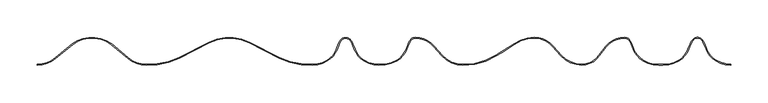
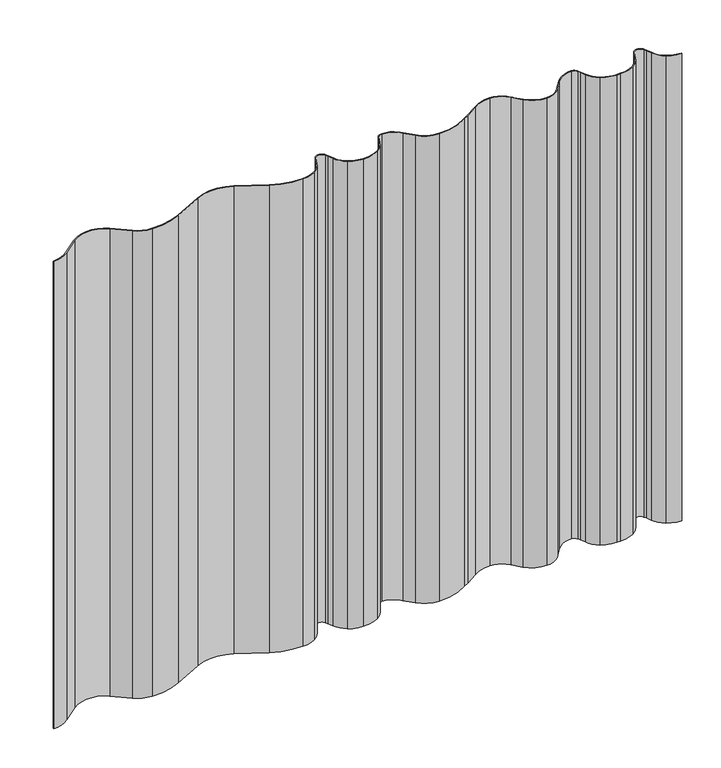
"""IFC4 building model written with IfcOpenShell, lengths in millimetres: plate geometry, Ritmica Vertical 928 : Ritmica Vertical 928."""

from ifc_helpers import new_model, si_unit, frame, origin, place, context, project, spatial, polyline, circle_curve, source, transform, mapped, element, save
from ifc_brep_helpers import plane_surface, cylinder_surface, revolved_surface, advanced_brep


def plate_cdf76dba(model_context):
    return source(origin(), model_context, "Body", "AdvancedBrep", [
        advanced_brep(
        [(444.4302446, 6.5092452, 729.9248737), (431.9836286, 21.2620905, 729.9248737), (429.1046615, 28.4575337, 729.9248737), (427.4452979, 31.9226201, 729.9248737), (411.4637013, 31.9284371, 729.9248737), (409.8018157, 28.4645596, 729.9248737), (406.9176114, 21.271214, 729.9248737), (394.4602592, 6.5274333, 729.9248737), (373.3665492, 0.7421636, 729.9248737), (368.0278773, 0.7421636, 729.9248737), (346.9383844, 6.5447303, 729.9248737), (334.4917684, 21.2975755, 729.9248737), (331.6128013, 28.4930188, 729.9248737), (329.9534377, 31.9581052, 729.9248737), (321.9644706, 36.992141, 729.9248737), (296.9888452, 24.9656023, 729.9248737), (287.4386892, 12.9828793, 729.9248737), (264.9602063, 1.004862, 729.9248737), (237.4962028, 13.0090371, 729.9248737), (226.3924296, 24.9992776, 729.9248737), (201.4255657, 37.0439944, 729.9248737), (174.6923281, 28.6299834, 729.9248737), (157.3593244, 17.4991286, 729.9248737), (149.9257866, 13.1042873, 729.9248737), (105.747615, 0.9217598, 729.9248737), (78.2836116, 12.9259348, 729.9248737), (67.1798385, 24.9161752, 729.9248737), (42.2097646, 36.9608925, 729.9248737), (34.2203451, 31.9326734, 729.9248737), (32.5584593, 28.4687956, 729.9248737), (29.674242, 21.2754179, 729.9248737), (17.2169044, 6.5316705, 729.9248737), (-6.5461114, 0.8337401, 729.9248737), (-26.0848579, 6.3430017, 729.9248737), (-38.5314739, 21.0958469, 729.9248737), (-41.410441, 28.2912902, 729.9248737), (-43.0698047, 31.7563766, 729.9248737), (-59.0514012, 31.7621935, 729.9248737), (-60.7132869, 28.298316, 729.9248737), (-63.5974912, 21.1049705, 729.9248737), (-76.0548434, 6.3611897, 729.9248737), (-95.5975949, 0.8661531, 729.9248737), (-139.3425473, 10.0476548, 729.9248737), (-179.8736188, 30.4443215, 729.9248737), (-233.7774888, 30.4639414, 729.9248737), (-274.3233975, 10.0967851, 729.9248737), (-318.0750221, 0.9471304, 729.9248737), (-341.83917, 9.5589915, 729.9248737), (-364.2633956, 28.2547827, 729.9248737), (-417.1208498, 28.2740218, 729.9248737), (-439.8609935, 9.5945594, 729.9248737), (-463.6317682, 1.0000001, 729.9248737), (-463.6317682, 0.0, 729.9248737), (-439.2211878, 8.8260227, 729.9248737), (-416.5014094, 27.488531, 729.9248737), (-364.8834077, 27.4697431, 729.9248737), (-342.479535, 8.7909208, 729.9248737), (-318.0931528, -0.0528589, 729.9248737), (-273.882295, 9.1992862, 729.9248737), (-233.3286151, 29.5703462, 729.9248737), (-180.3231429, 29.5510533, 729.9248737), (-139.7843031, 9.1504773, 729.9248737), (-95.5801931, -0.1338492, 729.9248737), (-75.5333761, 5.5079185, 729.9248737), (-62.6692321, 20.7330361, 729.9248737), (-59.7974032, 27.8955168, 729.9248737), (-58.1497994, 31.3296266, 729.9248737), (-43.9717211, 31.324466, 729.9248737), (-42.3266177, 27.8891578, 729.9248737), (-39.4600035, 20.7245884, 729.9248737), (-26.6069462, 5.4901103, 729.9248737), (-6.5788504, -0.1662344, 729.9248737), (17.7328786, 5.6750431, 729.9248737), (30.6024869, 20.9034484, 729.9248737), (33.4743429, 28.0659964, 729.9248737), (35.1219469, 31.5001063, 729.9248737), (42.2097628, 35.9608925, 729.9248737), (66.4203948, 24.2645007, 729.9248737), (77.5499027, 12.2464708, 729.9248737), (105.7362544, -0.0782346, 729.9248737), (150.4460781, 12.2501965, 729.9248737), (157.8841427, 16.6477141, 729.9248737), (175.2477974, 27.7982523, 729.9248737), (201.4270073, 36.0439937, 729.9248737), (225.6330756, 24.3475061, 729.9248737), (236.7624939, 12.3295731, 729.9248737), (264.9598423, 0.0048621, 729.9248737), (288.2459339, 12.3912758, 729.9248737), (297.7708595, 24.3423418, 729.9248737), (321.9641067, 35.9921411, 729.9248737), (329.0515212, 31.5261946, 729.9248737), (330.6966247, 28.0908864, 729.9248737), (333.5638307, 20.9248377, 729.9248737), (346.4204051, 5.6893005, 729.9248737), (368.0275134, -0.2558932, 729.9248737), (373.3663683, -0.2578364, 729.9248737), (394.9762369, 5.6708079, 729.9248737), (407.8458704, 20.8992797, 729.9248737), (410.7176994, 28.0617603, 729.9248737), (412.3653031, 31.4958701, 729.9248737), (426.5433815, 31.4907096, 729.9248737), (428.1884849, 28.0554013, 729.9248737), (431.0550991, 20.8908319, 729.9248737), (443.9081563, 5.6563538, 729.9248737), (463.9686268, -1.63e-05, 729.9248737), (463.9686268, 0.9999838, 729.9248737), (444.4302446, 6.5092452, 0.0), (463.9686268, 0.9999838, 0.0), (463.9686268, -1.63e-05, 0.0), (443.9081563, 5.6563538, 0.0), (431.0550991, 20.8908319, 0.0), (428.1884849, 28.0554013, 0.0), (426.5433815, 31.4907096, 0.0), (412.3653031, 31.4958701, 0.0), (410.7176994, 28.0617603, 0.0), (407.8458704, 20.8992797, 0.0), (394.9762369, 5.6708079, 0.0), (373.3663683, -0.2578364, 0.0), (368.0278773, -0.2578364, 0.0), (346.4204051, 5.6893005, 0.0), (333.5638307, 20.9248377, 0.0), (330.6966247, 28.0908864, 0.0), (329.0515212, 31.5261946, 0.0), (321.9641067, 35.9921411, 0.0), (297.7708595, 24.3423418, 0.0), (288.2459339, 12.3912758, 0.0), (264.9598423, 0.0048621, 0.0), (236.7624939, 12.3295731, 0.0), (225.6330756, 24.3475061, 0.0), (201.4270073, 36.0439937, 0.0), (175.2477974, 27.7982523, 0.0), (157.8841427, 16.6477141, 0.0), (150.4460781, 12.2501965, 0.0), (105.7362544, -0.0782346, 0.0), (77.5499027, 12.2464708, 0.0), (66.4203948, 24.2645007, 0.0), (42.2097628, 35.9608925, 0.0), (35.1219469, 31.5001063, 0.0), (33.4743429, 28.0659964, 0.0), (30.6024869, 20.9034484, 0.0), (17.7328786, 5.6750431, 0.0), (-6.5788504, -0.1662344, 0.0), (-26.6069462, 5.4901103, 0.0), (-39.4600035, 20.7245884, 0.0), (-42.3266177, 27.8891578, 0.0), (-43.9717211, 31.324466, 0.0), (-58.1497994, 31.3296266, 0.0), (-59.7974032, 27.8955168, 0.0), (-62.6692321, 20.7330361, 0.0), (-75.5333761, 5.5079185, 0.0), (-95.5801931, -0.1338492, 0.0), (-139.7843031, 9.1504773, 0.0), (-180.3231429, 29.5510533, 0.0), (-233.3286151, 29.5703462, 0.0), (-273.882295, 9.1992862, 0.0), (-318.0931528, -0.0528589, 0.0), (-342.479535, 8.7909208, 0.0), (-364.8834077, 27.4697431, 0.0), (-416.5014094, 27.488531, 0.0), (-439.2211878, 8.8260227, 0.0), (-463.6317682, 0.0, 0.0), (-463.6317682, 1.0000001, 0.0), (-439.8609935, 9.5945594, 0.0), (-417.1208498, 28.2740218, 0.0), (-364.2633956, 28.2547827, 0.0), (-341.83917, 9.5589915, 0.0), (-318.0750221, 0.9471304, 0.0), (-274.3233975, 10.0967851, 0.0), (-233.7774888, 30.4639414, 0.0), (-179.8736188, 30.4443215, 0.0), (-139.3425473, 10.0476548, 0.0), (-95.5975949, 0.8661531, 0.0), (-76.0548434, 6.3611897, 0.0), (-63.5974912, 21.1049705, 0.0), (-60.7132869, 28.298316, 0.0), (-59.0514012, 31.7621935, 0.0), (-43.0698047, 31.7563766, 0.0), (-41.410441, 28.2912902, 0.0), (-38.5314739, 21.0958469, 0.0), (-26.0848579, 6.3430017, 0.0), (-6.5461114, 0.8337401, 0.0), (17.2169044, 6.5316705, 0.0), (29.674242, 21.2754179, 0.0), (32.5584593, 28.4687956, 0.0), (34.2203451, 31.9326734, 0.0), (42.2097646, 36.9608925, 0.0), (67.1798385, 24.9161752, 0.0), (78.2836116, 12.9259348, 0.0), (105.747615, 0.9217598, 0.0), (149.9257866, 13.1042873, 0.0), (157.3593244, 17.4991286, 0.0), (174.6923281, 28.6299834, 0.0), (201.4255657, 37.0439944, 0.0), (226.3924296, 24.9992776, 0.0), (237.4962028, 13.0090371, 0.0), (264.9602063, 1.004862, 0.0), (287.4386892, 12.9828793, 0.0), (296.9888452, 24.9656023, 0.0), (321.9644706, 36.992141, 0.0), (329.9534377, 31.9581052, 0.0), (331.6128013, 28.4930188, 0.0), (334.4917684, 21.2975755, 0.0), (346.9383844, 6.5447303, 0.0), (368.0278773, 0.7441067, 0.0), (373.3665492, 0.7421636, 0.0), (394.4602592, 6.5274333, 0.0), (406.9176114, 21.271214, 0.0), (409.8018157, 28.4645596, 0.0), (411.4637013, 31.9284371, 0.0), (427.4452979, 31.9226201, 0.0), (429.1046615, 28.4575337, 0.0), (431.9836286, 21.2620905, 0.0)],
        [
            (0, 1, circle_curve(frame((460.4148551, 32.6219475, 729.9248737), z_axis=(0.0, 0.0, -1.0), x_axis=(1.0, 0.0, 0.0)), 30.6166783)),
            (1, 2),
            (2, 3),
            (3, 4, circle_curve(frame((419.4531055, 28.095312, 729.9248737), z_axis=(0.0, 0.0, 1.0), x_axis=(1.0, 0.0, 0.0)), 8.8613445)),
            (4, 5),
            (5, 6),
            (6, 7, circle_curve(frame((378.4946619, 32.6517648, 729.9248737), z_axis=(0.0, 0.0, -1.0), x_axis=(1.0, 0.0, 0.0)), 30.6166783)),
            (7, 8, circle_curve(frame((373.381579, 42.0349557, 729.9248737), z_axis=(0.0, 0.0, -1.0), x_axis=(1.0, 0.0, 0.0)), 41.2927949)),
            (8, 9),
            (9, 10, circle_curve(frame((368.0429071, 42.0368989, 729.9248737), z_axis=(0.0, 0.0, -1.0), x_axis=(1.0, 0.0, 0.0)), 41.2927949)),
            (10, 11, circle_curve(frame((363.1637949, 32.8605896, 729.9248737), z_axis=(0.0, 0.0, -1.0), x_axis=(1.0, 0.0, 0.0)), 30.9158276)),
            (11, 12),
            (12, 13),
            (13, 14, circle_curve(frame((321.9612453, 28.130797, 729.9248737), z_axis=(0.0, 0.0, 1.0), x_axis=(1.0, 0.0, 0.0)), 8.8613445)),
            (14, 15, circle_curve(frame((321.9528514, 5.069444, 729.9248737), z_axis=(0.0, 0.0, 1.0), x_axis=(1.0, 0.0, 0.0)), 31.9226992)),
            (15, 16),
            (16, 17, circle_curve(frame((264.9700565, 28.0674484, 729.9248737), z_axis=(0.0, 0.0, -1.0), x_axis=(1.0, 0.0, 0.0)), 27.0625882)),
            (17, 18, circle_curve(frame((264.9738374, 38.455184, 729.9248737), z_axis=(0.0, 0.0, -1.0), x_axis=(1.0, 0.0, 0.0)), 37.4503244)),
            (18, 19),
            (19, 20, circle_curve(frame((201.4139464, 5.1212973, 729.9248737), z_axis=(0.0, 0.0, 1.0), x_axis=(1.0, 0.0, 0.0)), 31.9226992)),
            (20, 21, circle_curve(frame((201.5791622, -10.119828, 729.9248737), z_axis=(0.0, 0.0, 1.0), x_axis=(1.0, 0.0, 0.0)), 47.1640725)),
            (21, 22),
            (22, 23),
            (23, 24, circle_curve(frame((107.5247522, 80.6713634, 729.9248737), z_axis=(0.0, 0.0, -1.0), x_axis=(1.0, 0.0, 0.0)), 79.769402)),
            (24, 25, circle_curve(frame((105.7612462, 38.3720817, 729.9248737), z_axis=(0.0, 0.0, -1.0), x_axis=(1.0, 0.0, 0.0)), 37.4503244)),
            (25, 26),
            (26, 27, circle_curve(frame((42.2097086, 5.0555108, 729.9248737), z_axis=(0.0, 0.0, 1.0), x_axis=(1.0, 0.0, 0.0)), 31.9053816)),
            (27, 28, circle_curve(frame((42.209749, 28.099548, 729.9248737), z_axis=(0.0, 0.0, 1.0), x_axis=(1.0, 0.0, 0.0)), 8.8613444)),
            (28, 29),
            (29, 30),
            (30, 31, circle_curve(frame((1.2513055, 32.656001, 729.9248737), z_axis=(0.0, 0.0, -1.0), x_axis=(1.0, 0.0, 0.0)), 30.6166783)),
            (31, 32, circle_curve(frame((-3.8617775, 42.0391919, 729.9248737), z_axis=(0.0, 0.0, -1.0), x_axis=(1.0, 0.0, 0.0)), 41.2927948)),
            (32, 33, circle_curve(frame((-6.5324806, 38.2840621, 729.9248737), z_axis=(0.0, 0.0, -1.0), x_axis=(1.0, 0.0, 0.0)), 37.4503244)),
            (33, 34, circle_curve(frame((-10.1002475, 32.4557039, 729.9248737), z_axis=(0.0, 0.0, -1.0), x_axis=(1.0, 0.0, 0.0)), 30.6166783)),
            (34, 35),
            (35, 36),
            (36, 37, circle_curve(frame((-51.0619971, 27.9290684, 729.9248737), z_axis=(0.0, 0.0, 1.0), x_axis=(1.0, 0.0, 0.0)), 8.8613445)),
            (37, 38),
            (38, 39),
            (39, 40, circle_curve(frame((-92.0204406, 32.4855212, 729.9248737), z_axis=(0.0, 0.0, -1.0), x_axis=(1.0, 0.0, 0.0)), 30.6166783)),
            (40, 41, circle_curve(frame((-95.5839638, 38.316475, 729.9248737), z_axis=(0.0, 0.0, -1.0), x_axis=(1.0, 0.0, 0.0)), 37.4503244)),
            (41, 42, circle_curve(frame((-98.8645428, 94.1023106, 729.9248737), z_axis=(0.0, 0.0, -1.0), x_axis=(1.0, 0.0, 0.0)), 93.293376)),
            (42, 43),
            (43, 44, circle_curve(frame((-206.8450653, -23.1517705, 729.9248737), z_axis=(0.0, 0.0, 1.0), x_axis=(1.0, 0.0, 0.0)), 60.0)),
            (44, 45),
            (45, 46, circle_curve(frame((-314.7402029, 94.180885, 729.9248737), z_axis=(0.0, 0.0, -1.0), x_axis=(1.0, 0.0, 0.0)), 93.293376)),
            (46, 47, circle_curve(frame((-318.061507, 38.0785482, 729.9248737), z_axis=(0.0, 0.0, -1.0), x_axis=(1.0, 0.0, 0.0)), 37.1314203)),
            (47, 48),
            (48, 49, circle_curve(frame((-390.7049909, -7.0897704, 729.9248737), z_axis=(0.0, 0.0, 1.0), x_axis=(1.0, 0.0, 0.0)), 44.1406321)),
            (49, 50),
            (50, 51, circle_curve(frame((-463.6178891, 38.1314178, 729.9248737), z_axis=(0.0, 0.0, -1.0), x_axis=(1.0, 0.0, 0.0)), 37.1314203)),
            (51, 52),
            (52, 53, circle_curve(frame((-463.6178891, 38.1314178, 729.9248737), z_axis=(0.0, 0.0, 1.0), x_axis=(1.0, 0.0, 0.0)), 38.1314203)),
            (53, 54),
            (54, 55, circle_curve(frame((-390.7049909, -7.0897704, 729.9248737), z_axis=(0.0, 0.0, -1.0), x_axis=(1.0, 0.0, 0.0)), 43.1406321)),
            (55, 56),
            (56, 57, circle_curve(frame((-318.061507, 38.0785482, 729.9248737), z_axis=(0.0, 0.0, 1.0), x_axis=(1.0, 0.0, 0.0)), 38.1314203)),
            (57, 58, circle_curve(frame((-314.7402029, 94.180885, 729.9248737), z_axis=(0.0, 0.0, 1.0), x_axis=(1.0, 0.0, 0.0)), 94.293376)),
            (58, 59),
            (59, 60, circle_curve(frame((-206.8450653, -23.1517705, 729.9248737), z_axis=(0.0, 0.0, -1.0), x_axis=(1.0, 0.0, 0.0)), 59.0)),
            (60, 61),
            (61, 62, circle_curve(frame((-98.8645428, 94.1023106, 729.9248737), z_axis=(0.0, 0.0, 1.0), x_axis=(1.0, 0.0, 0.0)), 94.293376)),
            (62, 63, circle_curve(frame((-95.5839638, 38.316475, 729.9248737), z_axis=(0.0, 0.0, 1.0), x_axis=(1.0, 0.0, 0.0)), 38.4503244)),
            (63, 64, circle_curve(frame((-92.0204406, 32.4855212, 729.9248737), z_axis=(0.0, 0.0, 1.0), x_axis=(1.0, 0.0, 0.0)), 31.6166783)),
            (64, 65),
            (65, 66),
            (66, 67, circle_curve(frame((-51.0619971, 27.9290684, 729.9248737), z_axis=(0.0, 0.0, -1.0), x_axis=(1.0, 0.0, 0.0)), 7.8613445)),
            (67, 68),
            (68, 69),
            (69, 70, circle_curve(frame((-10.1002475, 32.4557039, 729.9248737), z_axis=(0.0, 0.0, 1.0), x_axis=(1.0, 0.0, 0.0)), 31.6166783)),
            (70, 71, circle_curve(frame((-6.5324806, 38.2840621, 729.9248737), z_axis=(0.0, 0.0, 1.0), x_axis=(1.0, 0.0, 0.0)), 38.4503244)),
            (71, 72, circle_curve(frame((-3.8617775, 42.0391919, 729.9248737), z_axis=(0.0, 0.0, 1.0), x_axis=(1.0, 0.0, 0.0)), 42.2927948)),
            (72, 73, circle_curve(frame((1.2513055, 32.656001, 729.9248737), z_axis=(0.0, 0.0, 1.0), x_axis=(1.0, 0.0, 0.0)), 31.6166782)),
            (73, 74),
            (74, 75),
            (75, 76, circle_curve(frame((42.209749, 28.099548, 729.9248737), z_axis=(0.0, 0.0, -1.0), x_axis=(1.0, 0.0, 0.0)), 7.8613444)),
            (76, 77, circle_curve(frame((42.2097086, 5.0555108, 729.9248737), z_axis=(0.0, 0.0, -1.0), x_axis=(1.0, 0.0, 0.0)), 30.9053816)),
            (77, 78),
            (78, 79, circle_curve(frame((105.7612462, 38.3720817, 729.9248737), z_axis=(0.0, 0.0, 1.0), x_axis=(1.0, 0.0, 0.0)), 38.4503244)),
            (79, 80, circle_curve(frame((107.5247522, 80.6713634, 729.9248737), z_axis=(0.0, 0.0, 1.0), x_axis=(1.0, 0.0, 0.0)), 80.769402)),
            (80, 81),
            (81, 82),
            (82, 83, circle_curve(frame((201.5791622, -10.119828, 729.9248737), z_axis=(0.0, 0.0, -1.0), x_axis=(1.0, 0.0, 0.0)), 46.1640725)),
            (83, 84, circle_curve(frame((201.4139464, 5.1212973, 729.9248737), z_axis=(0.0, 0.0, -1.0), x_axis=(1.0, 0.0, 0.0)), 30.9226992)),
            (84, 85),
            (85, 86, circle_curve(frame((264.9738374, 38.455184, 729.9248737), z_axis=(0.0, 0.0, 1.0), x_axis=(1.0, 0.0, 0.0)), 38.4503244)),
            (86, 87, circle_curve(frame((264.9700565, 28.0674484, 729.9248737), z_axis=(0.0, 0.0, 1.0), x_axis=(1.0, 0.0, 0.0)), 28.0625882)),
            (87, 88),
            (88, 89, circle_curve(frame((321.9528514, 5.069444, 729.9248737), z_axis=(0.0, 0.0, -1.0), x_axis=(1.0, 0.0, 0.0)), 30.9226992)),
            (89, 90, circle_curve(frame((321.9612453, 28.130797, 729.9248737), z_axis=(0.0, 0.0, -1.0), x_axis=(1.0, 0.0, 0.0)), 7.8613445)),
            (90, 91),
            (91, 92),
            (92, 93, circle_curve(frame((363.1637949, 32.8605896, 729.9248737), z_axis=(0.0, 0.0, 1.0), x_axis=(1.0, 0.0, 0.0)), 31.9158276)),
            (93, 94, circle_curve(frame((368.0429071, 42.0368989, 729.9248737), z_axis=(0.0, 0.0, 1.0), x_axis=(1.0, 0.0, 0.0)), 42.2927949)),
            (94, 95),
            (95, 96, circle_curve(frame((373.381579, 42.0349557, 729.9248737), z_axis=(0.0, 0.0, 1.0), x_axis=(1.0, 0.0, 0.0)), 42.2927949)),
            (96, 97, circle_curve(frame((378.4946619, 32.6517648, 729.9248737), z_axis=(0.0, 0.0, 1.0), x_axis=(1.0, 0.0, 0.0)), 31.6166783)),
            (97, 98),
            (98, 99),
            (99, 100, circle_curve(frame((419.4531055, 28.095312, 729.9248737), z_axis=(0.0, 0.0, -1.0), x_axis=(1.0, 0.0, 0.0)), 7.8613445)),
            (100, 101),
            (101, 102),
            (102, 103, circle_curve(frame((460.4148551, 32.6219475, 729.9248737), z_axis=(0.0, 0.0, 1.0), x_axis=(1.0, 0.0, 0.0)), 31.6166783)),
            (103, 104, circle_curve(frame((463.982622, 38.4503056, 729.9248737), z_axis=(0.0, 0.0, 1.0), x_axis=(1.0, 0.0, 0.0)), 38.4503244)),
            (104, 105),
            (105, 0, circle_curve(frame((463.982622, 38.4503056, 729.9248737), z_axis=(0.0, 0.0, -1.0), x_axis=(1.0, 0.0, 0.0)), 37.4503244)),
            (106, 107, circle_curve(frame((463.982622, 38.4503056, 0.0), z_axis=(0.0, 0.0, 1.0), x_axis=(1.0, 0.0, 0.0)), 37.4503244)),
            (107, 108),
            (108, 109, circle_curve(frame((463.982622, 38.4503056, 0.0), z_axis=(0.0, 0.0, -1.0), x_axis=(1.0, 0.0, 0.0)), 38.4503244)),
            (109, 110, circle_curve(frame((460.4148551, 32.6219475, 0.0), z_axis=(0.0, 0.0, -1.0), x_axis=(1.0, 0.0, 0.0)), 31.6166783)),
            (110, 111),
            (111, 112),
            (112, 113, circle_curve(frame((419.4531055, 28.095312, 0.0), z_axis=(0.0, 0.0, 1.0), x_axis=(1.0, 0.0, 0.0)), 7.8613445)),
            (113, 114),
            (114, 115),
            (115, 116, circle_curve(frame((378.4946619, 32.6517648, 0.0), z_axis=(0.0, 0.0, -1.0), x_axis=(1.0, 0.0, 0.0)), 31.6166783)),
            (116, 117, circle_curve(frame((373.381579, 42.0349557, 0.0), z_axis=(0.0, 0.0, -1.0), x_axis=(1.0, 0.0, 0.0)), 42.2927949)),
            (117, 118),
            (118, 119, circle_curve(frame((368.0429071, 42.0368989, 0.0), z_axis=(0.0, 0.0, -1.0), x_axis=(1.0, 0.0, 0.0)), 42.2927949)),
            (119, 120, circle_curve(frame((363.1637949, 32.8605896, 0.0), z_axis=(0.0, 0.0, -1.0), x_axis=(1.0, 0.0, 0.0)), 31.9158276)),
            (120, 121),
            (121, 122),
            (122, 123, circle_curve(frame((321.9612453, 28.130797, 0.0), z_axis=(0.0, 0.0, 1.0), x_axis=(1.0, 0.0, 0.0)), 7.8613445)),
            (123, 124, circle_curve(frame((321.9528514, 5.069444, 0.0), z_axis=(0.0, 0.0, 1.0), x_axis=(1.0, 0.0, 0.0)), 30.9226992)),
            (124, 125),
            (125, 126, circle_curve(frame((264.9700565, 28.0674484, 0.0), z_axis=(0.0, 0.0, -1.0), x_axis=(1.0, 0.0, 0.0)), 28.0625882)),
            (126, 127, circle_curve(frame((264.9738374, 38.455184, 0.0), z_axis=(0.0, 0.0, -1.0), x_axis=(1.0, 0.0, 0.0)), 38.4503244)),
            (127, 128),
            (128, 129, circle_curve(frame((201.4139464, 5.1212973, 0.0), z_axis=(0.0, 0.0, 1.0), x_axis=(1.0, 0.0, 0.0)), 30.9226992)),
            (129, 130, circle_curve(frame((201.5791622, -10.119828, 0.0), z_axis=(0.0, 0.0, 1.0), x_axis=(1.0, 0.0, 0.0)), 46.1640725)),
            (130, 131),
            (131, 132),
            (132, 133, circle_curve(frame((107.5247522, 80.6713634, 0.0), z_axis=(0.0, 0.0, -1.0), x_axis=(1.0, 0.0, 0.0)), 80.769402)),
            (133, 134, circle_curve(frame((105.7612462, 38.3720817, 0.0), z_axis=(0.0, 0.0, -1.0), x_axis=(1.0, 0.0, 0.0)), 38.4503244)),
            (134, 135),
            (135, 136, circle_curve(frame((42.2097086, 5.0555108, 0.0), z_axis=(0.0, 0.0, 1.0), x_axis=(1.0, 0.0, 0.0)), 30.9053816)),
            (136, 137, circle_curve(frame((42.209749, 28.099548, 0.0), z_axis=(0.0, 0.0, 1.0), x_axis=(1.0, 0.0, 0.0)), 7.8613444)),
            (137, 138),
            (138, 139),
            (139, 140, circle_curve(frame((1.2513055, 32.656001, 0.0), z_axis=(0.0, 0.0, -1.0), x_axis=(1.0, 0.0, 0.0)), 31.6166782)),
            (140, 141, circle_curve(frame((-3.8617775, 42.0391919, 0.0), z_axis=(0.0, 0.0, -1.0), x_axis=(1.0, 0.0, 0.0)), 42.2927948)),
            (141, 142, circle_curve(frame((-6.5324806, 38.2840621, 0.0), z_axis=(0.0, 0.0, -1.0), x_axis=(1.0, 0.0, 0.0)), 38.4503244)),
            (142, 143, circle_curve(frame((-10.1002475, 32.4557039, 0.0), z_axis=(0.0, 0.0, -1.0), x_axis=(1.0, 0.0, 0.0)), 31.6166783)),
            (143, 144),
            (144, 145),
            (145, 146, circle_curve(frame((-51.0619971, 27.9290684, 0.0), z_axis=(0.0, 0.0, 1.0), x_axis=(1.0, 0.0, 0.0)), 7.8613445)),
            (146, 147),
            (147, 148),
            (148, 149, circle_curve(frame((-92.0204406, 32.4855212, 0.0), z_axis=(0.0, 0.0, -1.0), x_axis=(1.0, 0.0, 0.0)), 31.6166783)),
            (149, 150, circle_curve(frame((-95.5839638, 38.316475, 0.0), z_axis=(0.0, 0.0, -1.0), x_axis=(1.0, 0.0, 0.0)), 38.4503244)),
            (150, 151, circle_curve(frame((-98.8645428, 94.1023106, 0.0), z_axis=(0.0, 0.0, -1.0), x_axis=(1.0, 0.0, 0.0)), 94.293376)),
            (151, 152),
            (152, 153, circle_curve(frame((-206.8450653, -23.1517705, 0.0), z_axis=(0.0, 0.0, 1.0), x_axis=(1.0, 0.0, 0.0)), 59.0)),
            (153, 154),
            (154, 155, circle_curve(frame((-314.7402029, 94.180885, 0.0), z_axis=(0.0, 0.0, -1.0), x_axis=(1.0, 0.0, 0.0)), 94.293376)),
            (155, 156, circle_curve(frame((-318.061507, 38.0785482, 0.0), z_axis=(0.0, 0.0, -1.0), x_axis=(1.0, 0.0, 0.0)), 38.1314203)),
            (156, 157),
            (157, 158, circle_curve(frame((-390.7049909, -7.0897704, 0.0), z_axis=(0.0, 0.0, 1.0), x_axis=(1.0, 0.0, 0.0)), 43.1406321)),
            (158, 159),
            (159, 160, circle_curve(frame((-463.6178891, 38.1314178, 0.0), z_axis=(0.0, 0.0, -1.0), x_axis=(1.0, 0.0, 0.0)), 38.1314203)),
            (160, 161),
            (161, 162, circle_curve(frame((-463.6178891, 38.1314178, 0.0), z_axis=(0.0, 0.0, 1.0), x_axis=(1.0, 0.0, 0.0)), 37.1314203)),
            (162, 163),
            (163, 164, circle_curve(frame((-390.7049909, -7.0897704, 0.0), z_axis=(0.0, 0.0, -1.0), x_axis=(1.0, 0.0, 0.0)), 44.1406321)),
            (164, 165),
            (165, 166, circle_curve(frame((-318.061507, 38.0785482, 0.0), z_axis=(0.0, 0.0, 1.0), x_axis=(1.0, 0.0, 0.0)), 37.1314203)),
            (166, 167, circle_curve(frame((-314.7402029, 94.180885, 0.0), z_axis=(0.0, 0.0, 1.0), x_axis=(1.0, 0.0, 0.0)), 93.293376)),
            (167, 168),
            (168, 169, circle_curve(frame((-206.8450653, -23.1517705, 0.0), z_axis=(0.0, 0.0, -1.0), x_axis=(1.0, 0.0, 0.0)), 60.0)),
            (169, 170),
            (170, 171, circle_curve(frame((-98.8645428, 94.1023106, 0.0), z_axis=(0.0, 0.0, 1.0), x_axis=(1.0, 0.0, 0.0)), 93.293376)),
            (171, 172, circle_curve(frame((-95.5839638, 38.316475, 0.0), z_axis=(0.0, 0.0, 1.0), x_axis=(1.0, 0.0, 0.0)), 37.4503244)),
            (172, 173, circle_curve(frame((-92.0204406, 32.4855212, 0.0), z_axis=(0.0, 0.0, 1.0), x_axis=(1.0, 0.0, 0.0)), 30.6166783)),
            (173, 174),
            (174, 175),
            (175, 176, circle_curve(frame((-51.0619971, 27.9290684, 0.0), z_axis=(0.0, 0.0, -1.0), x_axis=(1.0, 0.0, 0.0)), 8.8613445)),
            (176, 177),
            (177, 178),
            (178, 179, circle_curve(frame((-10.1002475, 32.4557039, 0.0), z_axis=(0.0, 0.0, 1.0), x_axis=(1.0, 0.0, 0.0)), 30.6166783)),
            (179, 180, circle_curve(frame((-6.5324806, 38.2840621, 0.0), z_axis=(0.0, 0.0, 1.0), x_axis=(1.0, 0.0, 0.0)), 37.4503244)),
            (180, 181, circle_curve(frame((-3.8617775, 42.0391919, 0.0), z_axis=(0.0, 0.0, 1.0), x_axis=(1.0, 0.0, 0.0)), 41.2927948)),
            (181, 182, circle_curve(frame((1.2513055, 32.656001, 0.0), z_axis=(0.0, 0.0, 1.0), x_axis=(1.0, 0.0, 0.0)), 30.6166783)),
            (182, 183),
            (183, 184),
            (184, 185, circle_curve(frame((42.209749, 28.099548, 0.0), z_axis=(0.0, 0.0, -1.0), x_axis=(1.0, 0.0, 0.0)), 8.8613444)),
            (185, 186, circle_curve(frame((42.2097086, 5.0555108, 0.0), z_axis=(0.0, 0.0, -1.0), x_axis=(1.0, 0.0, 0.0)), 31.9053816)),
            (186, 187),
            (187, 188, circle_curve(frame((105.7612462, 38.3720817, 0.0), z_axis=(0.0, 0.0, 1.0), x_axis=(1.0, 0.0, 0.0)), 37.4503244)),
            (188, 189, circle_curve(frame((107.5247522, 80.6713634, 0.0), z_axis=(0.0, 0.0, 1.0), x_axis=(1.0, 0.0, 0.0)), 79.769402)),
            (189, 190),
            (190, 191),
            (191, 192, circle_curve(frame((201.5791622, -10.119828, 0.0), z_axis=(0.0, 0.0, -1.0), x_axis=(1.0, 0.0, 0.0)), 47.1640725)),
            (192, 193, circle_curve(frame((201.4139464, 5.1212973, 0.0), z_axis=(0.0, 0.0, -1.0), x_axis=(1.0, 0.0, 0.0)), 31.9226992)),
            (193, 194),
            (194, 195, circle_curve(frame((264.9738374, 38.455184, 0.0), z_axis=(0.0, 0.0, 1.0), x_axis=(1.0, 0.0, 0.0)), 37.4503244)),
            (195, 196, circle_curve(frame((264.9700565, 28.0674484, 0.0), z_axis=(0.0, 0.0, 1.0), x_axis=(1.0, 0.0, 0.0)), 27.0625882)),
            (196, 197),
            (197, 198, circle_curve(frame((321.9528514, 5.069444, 0.0), z_axis=(0.0, 0.0, -1.0), x_axis=(1.0, 0.0, 0.0)), 31.9226992)),
            (198, 199, circle_curve(frame((321.9612453, 28.130797, 0.0), z_axis=(0.0, 0.0, -1.0), x_axis=(1.0, 0.0, 0.0)), 8.8613445)),
            (199, 200),
            (200, 201),
            (201, 202, circle_curve(frame((363.1637949, 32.8605896, 0.0), z_axis=(0.0, 0.0, 1.0), x_axis=(1.0, 0.0, 0.0)), 30.9158276)),
            (202, 203, circle_curve(frame((368.0429071, 42.0368989, 0.0), z_axis=(0.0, 0.0, 1.0), x_axis=(1.0, 0.0, 0.0)), 41.2927949)),
            (203, 204),
            (204, 205, circle_curve(frame((373.381579, 42.0349557, 0.0), z_axis=(0.0, 0.0, 1.0), x_axis=(1.0, 0.0, 0.0)), 41.2927949)),
            (205, 206, circle_curve(frame((378.4946619, 32.6517648, 0.0), z_axis=(0.0, 0.0, 1.0), x_axis=(1.0, 0.0, 0.0)), 30.6166783)),
            (206, 207),
            (207, 208),
            (208, 209, circle_curve(frame((419.4531055, 28.095312, 0.0), z_axis=(0.0, 0.0, -1.0), x_axis=(1.0, 0.0, 0.0)), 8.8613445)),
            (209, 210),
            (210, 211),
            (211, 106, circle_curve(frame((460.4148551, 32.6219475, 0.0), z_axis=(0.0, 0.0, 1.0), x_axis=(1.0, 0.0, 0.0)), 30.6166783)),
            (0, 106),
            (211, 1),
            (210, 2),
            (209, 3),
            (208, 4),
            (207, 5),
            (206, 6),
            (205, 7),
            (204, 8),
            (203, 9),
            (202, 10),
            (201, 11),
            (200, 12),
            (199, 13),
            (198, 14),
            (197, 15),
            (196, 16),
            (195, 17),
            (194, 18),
            (193, 19),
            (192, 20),
            (191, 21),
            (190, 22),
            (189, 23),
            (188, 24),
            (187, 25),
            (186, 26),
            (185, 27),
            (184, 28),
            (183, 29),
            (182, 30),
            (181, 31),
            (180, 32),
            (179, 33),
            (178, 34),
            (177, 35),
            (176, 36),
            (175, 37),
            (174, 38),
            (173, 39),
            (172, 40),
            (171, 41),
            (170, 42),
            (169, 43),
            (168, 44),
            (167, 45),
            (166, 46),
            (165, 47),
            (164, 48),
            (163, 49),
            (162, 50),
            (161, 51),
            (160, 52),
            (159, 53),
            (158, 54),
            (157, 55),
            (156, 56),
            (155, 57),
            (154, 58),
            (153, 59),
            (152, 60),
            (151, 61),
            (150, 62),
            (149, 63),
            (148, 64),
            (147, 65),
            (146, 66),
            (145, 67),
            (144, 68),
            (143, 69),
            (142, 70),
            (141, 71),
            (140, 72),
            (139, 73),
            (138, 74),
            (137, 75),
            (136, 76),
            (135, 77),
            (134, 78),
            (133, 79),
            (132, 80),
            (131, 81),
            (130, 82),
            (129, 83),
            (128, 84),
            (127, 85),
            (126, 86),
            (125, 87),
            (124, 88),
            (123, 89),
            (122, 90),
            (121, 91),
            (120, 92),
            (119, 93),
            (118, 94),
            (117, 95),
            (116, 96),
            (115, 97),
            (114, 98),
            (113, 99),
            (112, 100),
            (111, 101),
            (110, 102),
            (109, 103),
            (108, 104),
            (107, 105),
        ],
        [
            plane_surface(frame((491.0315334, 32.6219475, 729.9248737), z_axis=(0.0, 0.0, 1.0), x_axis=(0.0, -1.0, 0.0))),
            plane_surface(frame((491.0315334, 32.6219475, 0.0), z_axis=(0.0, 0.0, -1.0), x_axis=(0.0, 1.0, 0.0))),
            revolved_surface(polyline([(491.0315334, 32.6219475, 0.0), (491.0315334, 32.6219475, 729.9248737)]), (460.4148551, 32.6219475, 0.0), (0.0, 0.0, -1.0)),
            plane_surface(frame((431.9836286, 21.2620905, 729.9248737), z_axis=(0.9284415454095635, 0.3714785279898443, 0.0), x_axis=(0.0, 0.0, -1.0))),
            plane_surface(frame((429.1046615, 28.4575337, 729.9248737), z_axis=(0.901916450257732, 0.4319105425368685, 0.0), x_axis=(0.0, 0.0, -1.0))),
            cylinder_surface(frame((419.4531055, 28.095312, 0.0), z_axis=(0.0, 0.0, 1.0), x_axis=(1.0, 0.0, 0.0)), 8.8613445),
            plane_surface(frame((411.4637013, 31.9284371, 729.9248737), z_axis=(-0.9016017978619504, 0.4325669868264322, 0.0), x_axis=(0.0, 0.0, -1.0))),
            plane_surface(frame((409.8018157, 28.4645596, 729.9248737), z_axis=(-0.9281708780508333, 0.37215429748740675, 0.0), x_axis=(0.0, 0.0, -1.0))),
            revolved_surface(polyline([(409.1113402, 32.6517648, 0.0), (409.1113402, 32.6517648, 729.9248737)]), (378.4946619, 32.6517648, 0.0), (0.0, 0.0, -1.0)),
            revolved_surface(polyline([(414.6743739, 42.0349557, 0.0), (414.6743739, 42.0349557, 729.9248737)]), (373.381579, 42.0349557, 0.0), (0.0, 0.0, -1.0)),
            plane_surface(frame((373.3665492, 0.7421636, 729.9248737), z_axis=(0.0, 1.0, 0.0), x_axis=(0.0, 0.0, -1.0))),
            revolved_surface(polyline([(409.33570199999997, 42.0368989, 0.0), (409.33570199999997, 42.0368989, 729.9248737)]), (368.0429071, 42.0368989, 0.0), (0.0, 0.0, -1.0)),
            revolved_surface(polyline([(394.0796225, 32.8605896, 0.0), (394.0796225, 32.8605896, 729.9248737)]), (363.1637949, 32.8605896, 0.0), (0.0, 0.0, -1.0)),
            plane_surface(frame((334.4917684, 21.2975755, 729.9248737), z_axis=(0.9284415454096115, 0.37147852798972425, 0.0), x_axis=(0.0, 0.0, -1.0))),
            plane_surface(frame((331.6128013, 28.4930188, 729.9248737), z_axis=(0.901916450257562, 0.4319105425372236, 0.0), x_axis=(0.0, 0.0, -1.0))),
            cylinder_surface(frame((321.9612453, 28.130797, 0.0), z_axis=(0.0, 0.0, 1.0), x_axis=(1.0, 0.0, 0.0)), 8.8613445),
            cylinder_surface(frame((321.9528514, 5.069444, 0.0), z_axis=(0.0, 0.0, 1.0), x_axis=(1.0, 0.0, 0.0)), 31.9226992),
            plane_surface(frame((296.9888452, 24.9656023, 729.9248737), z_axis=(-0.7820142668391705, 0.6232605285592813, 0.0), x_axis=(0.0, 0.0, -1.0))),
            revolved_surface(polyline([(292.0326447, 28.0674484, 0.0), (292.0326447, 28.0674484, 729.9248737)]), (264.9700565, 28.0674484, 0.0), (0.0, 0.0, -1.0)),
            revolved_surface(polyline([(302.4241618, 38.455184, 0.0), (302.4241618, 38.455184, 729.9248737)]), (264.9738374, 38.455184, 0.0), (0.0, 0.0, -1.0)),
            plane_surface(frame((237.4962028, 13.0090371, 729.9248737), z_axis=(0.7337088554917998, 0.6794639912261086, 0.0), x_axis=(0.0, 0.0, -1.0))),
            cylinder_surface(frame((201.4139464, 5.1212973, 0.0), z_axis=(0.0, 0.0, 1.0), x_axis=(1.0, 0.0, 0.0)), 31.9226992),
            cylinder_surface(frame((201.5791622, -10.119828, 0.0), z_axis=(0.0, 0.0, 1.0), x_axis=(1.0, 0.0, 0.0)), 47.1640725),
            plane_surface(frame((174.6923281, 28.6299834, 729.9248737), z_axis=(-0.5403525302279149, 0.8414387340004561, 0.0), x_axis=(0.0, 0.0, -1.0))),
            plane_surface(frame((157.3593244, 17.4991286, 729.9248737), z_axis=(-0.508926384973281, 0.8608100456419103, 0.0), x_axis=(0.0, 0.0, -1.0))),
            revolved_surface(polyline([(187.29415419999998, 80.6713634, 0.0), (187.29415419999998, 80.6713634, 729.9248737)]), (107.5247522, 80.6713634, 0.0), (0.0, 0.0, -1.0)),
            revolved_surface(polyline([(143.21157060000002, 38.3720817, 0.0), (143.21157060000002, 38.3720817, 729.9248737)]), (105.7612462, 38.3720817, 0.0), (0.0, 0.0, -1.0)),
            plane_surface(frame((78.2836116, 12.9259348, 729.9248737), z_axis=(0.7337088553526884, 0.679463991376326, 0.0), x_axis=(0.0, 0.0, -1.0))),
            cylinder_surface(frame((42.2097086, 5.0555108, 0.0), z_axis=(0.0, 0.0, 1.0), x_axis=(1.0, 0.0, 0.0)), 31.9053816),
            cylinder_surface(frame((42.209749, 28.099548, 0.0), z_axis=(0.0, 0.0, 1.0), x_axis=(1.0, 0.0, 0.0)), 8.8613444),
            plane_surface(frame((34.2203451, 31.9326734, 729.9248737), z_axis=(-0.901601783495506, 0.4325670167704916, 0.0), x_axis=(0.0, 0.0, -1.0))),
            plane_surface(frame((32.5584593, 28.4687956, 729.9248737), z_axis=(-0.9281708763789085, 0.3721543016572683, 0.0), x_axis=(0.0, 0.0, -1.0))),
            revolved_surface(polyline([(31.8679838, 32.656001, 0.0), (31.8679838, 32.656001, 729.9248737)]), (1.2513055, 32.656001, 0.0), (0.0, 0.0, -1.0)),
            revolved_surface(polyline([(37.4310173, 42.0391919, 0.0), (37.4310173, 42.0391919, 729.9248737)]), (-3.8617775, 42.0391919, 0.0), (0.0, 0.0, -1.0)),
            revolved_surface(polyline([(30.9178438, 38.2840621, 0.0), (30.9178438, 38.2840621, 729.9248737)]), (-6.5324806, 38.2840621, 0.0), (0.0, 0.0, -1.0)),
            revolved_surface(polyline([(20.516430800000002, 32.4557039, 0.0), (20.516430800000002, 32.4557039, 729.9248737)]), (-10.1002475, 32.4557039, 0.0), (0.0, 0.0, -1.0)),
            plane_surface(frame((-38.5314739, 21.0958469, 729.9248737), z_axis=(0.9284415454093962, 0.37147852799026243, 0.0), x_axis=(0.0, 0.0, -1.0))),
            plane_surface(frame((-41.410441, 28.2912902, 729.9248737), z_axis=(0.9019164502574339, 0.4319105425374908, 0.0), x_axis=(0.0, 0.0, -1.0))),
            cylinder_surface(frame((-51.0619971, 27.9290684, 0.0), z_axis=(0.0, 0.0, 1.0), x_axis=(1.0, 0.0, 0.0)), 8.8613445),
            plane_surface(frame((-59.0514012, 31.7621935, 729.9248737), z_axis=(-0.90160179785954, 0.4325669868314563, 0.0), x_axis=(0.0, 0.0, -1.0))),
            plane_surface(frame((-60.7132869, 28.298316, 729.9248737), z_axis=(-0.9281708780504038, 0.37215429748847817, 0.0), x_axis=(0.0, 0.0, -1.0))),
            revolved_surface(polyline([(-61.4037623, 32.4855212, 0.0), (-61.4037623, 32.4855212, 729.9248737)]), (-92.0204406, 32.4855212, 0.0), (0.0, 0.0, -1.0)),
            revolved_surface(polyline([(-58.13363940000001, 38.316475, 0.0), (-58.13363940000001, 38.316475, 729.9248737)]), (-95.5839638, 38.316475, 0.0), (0.0, 0.0, -1.0)),
            revolved_surface(polyline([(-5.5711668, 94.1023106, 0.0), (-5.5711668, 94.1023106, 729.9248737)]), (-98.8645428, 94.1023106, 0.0), (0.0, 0.0, -1.0)),
            plane_surface(frame((-139.3425473, 10.0476548, 729.9248737), z_axis=(0.4495241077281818, 0.8932681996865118, 0.0), x_axis=(0.0, 0.0, -1.0))),
            cylinder_surface(frame((-206.8450653, -23.1517705, 0.0), z_axis=(0.0, 0.0, 1.0), x_axis=(1.0, 0.0, 0.0)), 60.0),
            plane_surface(frame((-233.7774888, 30.4639414, 729.9248737), z_axis=(-0.44887372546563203, 0.8935951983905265, 0.0), x_axis=(0.0, 0.0, -1.0))),
            revolved_surface(polyline([(-221.4468269, 94.180885, 0.0), (-221.4468269, 94.180885, 729.9248737)]), (-314.7402029, 94.180885, 0.0), (0.0, 0.0, -1.0)),
            revolved_surface(polyline([(-280.9300867, 38.0785482, 0.0), (-280.9300867, 38.0785482, 729.9248737)]), (-318.061507, 38.0785482, 0.0), (0.0, 0.0, -1.0)),
            plane_surface(frame((-341.83917, 9.5589915, 729.9248737), z_axis=(0.6403650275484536, 0.7680707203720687, 0.0), x_axis=(0.0, 0.0, -1.0))),
            cylinder_surface(frame((-390.7049909, -7.0897704, 0.0), z_axis=(0.0, 0.0, 1.0), x_axis=(1.0, 0.0, 0.0)), 44.1406321),
            plane_surface(frame((-417.1208498, 28.2740218, 729.9248737), z_axis=(-0.634740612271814, 0.7727252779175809, 0.0), x_axis=(0.0, 0.0, -1.0))),
            revolved_surface(polyline([(-426.4864688, 38.1314178, 0.0), (-426.4864688, 38.1314178, 729.9248737)]), (-463.6178891, 38.1314178, 0.0), (0.0, 0.0, -1.0)),
            plane_surface(frame((-463.6317682, 1.0000001, 729.9248737), z_axis=(-1.0, 0.0, 0.0), x_axis=(0.0, 0.0, -1.0))),
            cylinder_surface(frame((-463.6178891, 38.1314178, 0.0), z_axis=(0.0, 0.0, 1.0), x_axis=(1.0, 0.0, 0.0)), 38.1314203),
            plane_surface(frame((-439.2211878, 8.8260227, 729.9248737), z_axis=(0.6347360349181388, -0.7727290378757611, 0.0), x_axis=(0.0, 0.0, -1.0))),
            revolved_surface(polyline([(-347.5643588, -7.0897704, 0.0), (-347.5643588, -7.0897704, 729.9248737)]), (-390.7049909, -7.0897704, 0.0), (0.0, 0.0, -1.0)),
            plane_surface(frame((-364.8834077, 27.4697431, 729.9248737), z_axis=(-0.6403650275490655, -0.7680707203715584, 0.0), x_axis=(0.0, 0.0, -1.0))),
            cylinder_surface(frame((-318.061507, 38.0785482, 0.0), z_axis=(0.0, 0.0, 1.0), x_axis=(1.0, 0.0, 0.0)), 38.1314203),
            cylinder_surface(frame((-314.7402029, 94.180885, 0.0), z_axis=(0.0, 0.0, 1.0), x_axis=(1.0, 0.0, 0.0)), 94.293376),
            plane_surface(frame((-273.882295, 9.1992862, 729.9248737), z_axis=(0.4488737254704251, -0.8935951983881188, 0.0), x_axis=(0.0, 0.0, -1.0))),
            revolved_surface(polyline([(-147.8450653, -23.1517705, 0.0), (-147.8450653, -23.1517705, 729.9248737)]), (-206.8450653, -23.1517705, 0.0), (0.0, 0.0, -1.0)),
            plane_surface(frame((-180.3231429, 29.5510533, 729.9248737), z_axis=(-0.4495241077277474, -0.8932681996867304, 0.0), x_axis=(0.0, 0.0, -1.0))),
            cylinder_surface(frame((-98.8645428, 94.1023106, 0.0), z_axis=(0.0, 0.0, 1.0), x_axis=(1.0, 0.0, 0.0)), 94.293376),
            cylinder_surface(frame((-95.5839638, 38.316475, 0.0), z_axis=(0.0, 0.0, 1.0), x_axis=(1.0, 0.0, 0.0)), 38.4503244),
            cylinder_surface(frame((-92.0204406, 32.4855212, 0.0), z_axis=(0.0, 0.0, 1.0), x_axis=(1.0, 0.0, 0.0)), 31.6166783),
            plane_surface(frame((-62.6692321, 20.7330361, 729.9248737), z_axis=(0.9281708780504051, -0.3721542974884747, 0.0), x_axis=(0.0, 0.0, -1.0))),
            plane_surface(frame((-59.7974032, 27.8955168, 729.9248737), z_axis=(0.9016017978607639, -0.4325669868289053, 0.0), x_axis=(0.0, 0.0, -1.0))),
            revolved_surface(polyline([(-43.2006526, 27.9290684, 0.0), (-43.2006526, 27.9290684, 729.9248737)]), (-51.0619971, 27.9290684, 0.0), (0.0, 0.0, -1.0)),
            plane_surface(frame((-43.9717211, 31.324466, 729.9248737), z_axis=(-0.9019164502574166, -0.43191054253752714, 0.0), x_axis=(0.0, 0.0, -1.0))),
            plane_surface(frame((-42.3266177, 27.8891578, 729.9248737), z_axis=(-0.9284415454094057, -0.3714785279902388, 0.0), x_axis=(0.0, 0.0, -1.0))),
            cylinder_surface(frame((-10.1002475, 32.4557039, 0.0), z_axis=(0.0, 0.0, 1.0), x_axis=(1.0, 0.0, 0.0)), 31.6166783),
            cylinder_surface(frame((-6.5324806, 38.2840621, 0.0), z_axis=(0.0, 0.0, 1.0), x_axis=(1.0, 0.0, 0.0)), 38.4503244),
            cylinder_surface(frame((-3.8617775, 42.0391919, 0.0), z_axis=(0.0, 0.0, 1.0), x_axis=(1.0, 0.0, 0.0)), 42.2927948),
            cylinder_surface(frame((1.2513055, 32.656001, 0.0), z_axis=(0.0, 0.0, 1.0), x_axis=(1.0, 0.0, 0.0)), 31.6166782),
            plane_surface(frame((30.6024869, 20.9034484, 729.9248737), z_axis=(0.9281708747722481, -0.37215430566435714, 0.0), x_axis=(0.0, 0.0, -1.0))),
            plane_surface(frame((33.4743429, 28.0659964, 729.9248737), z_axis=(0.9016017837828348, -0.4325670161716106, 0.0), x_axis=(0.0, 0.0, -1.0))),
            revolved_surface(polyline([(50.0710934, 28.099548, 0.0), (50.0710934, 28.099548, 729.9248737)]), (42.209749, 28.099548, 0.0), (0.0, 0.0, -1.0)),
            revolved_surface(polyline([(73.1150902, 5.0555108, 0.0), (73.1150902, 5.0555108, 729.9248737)]), (42.2097086, 5.0555108, 0.0), (0.0, 0.0, -1.0)),
            plane_surface(frame((66.4203948, 24.2645007, 729.9248737), z_axis=(-0.7337088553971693, -0.6794639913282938, 0.0), x_axis=(0.0, 0.0, -1.0))),
            cylinder_surface(frame((105.7612462, 38.3720817, 0.0), z_axis=(0.0, 0.0, 1.0), x_axis=(1.0, 0.0, 0.0)), 38.4503244),
            cylinder_surface(frame((107.5247522, 80.6713634, 0.0), z_axis=(0.0, 0.0, 1.0), x_axis=(1.0, 0.0, 0.0)), 80.769402),
            plane_surface(frame((150.4460781, 12.2501965, 729.9248737), z_axis=(0.5089263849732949, -0.8608100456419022, 0.0), x_axis=(0.0, 0.0, -1.0))),
            plane_surface(frame((157.8841427, 16.6477141, 729.9248737), z_axis=(0.5403525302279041, -0.8414387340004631, 0.0), x_axis=(0.0, 0.0, -1.0))),
            revolved_surface(polyline([(247.74323470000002, -10.119828, 0.0), (247.74323470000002, -10.119828, 729.9248737)]), (201.5791622, -10.119828, 0.0), (0.0, 0.0, -1.0)),
            revolved_surface(polyline([(232.3366456, 5.1212973, 0.0), (232.3366456, 5.1212973, 729.9248737)]), (201.4139464, 5.1212973, 0.0), (0.0, 0.0, -1.0)),
            plane_surface(frame((225.6330756, 24.3475061, 729.9248737), z_axis=(-0.7337088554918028, -0.6794639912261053, 0.0), x_axis=(0.0, 0.0, -1.0))),
            cylinder_surface(frame((264.9738374, 38.455184, 0.0), z_axis=(0.0, 0.0, 1.0), x_axis=(1.0, 0.0, 0.0)), 38.4503244),
            cylinder_surface(frame((264.9700565, 28.0674484, 0.0), z_axis=(0.0, 0.0, 1.0), x_axis=(1.0, 0.0, 0.0)), 28.0625882),
            plane_surface(frame((288.2459339, 12.3912758, 729.9248737), z_axis=(0.7820142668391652, -0.6232605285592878, 0.0), x_axis=(0.0, 0.0, -1.0))),
            revolved_surface(polyline([(352.8755506, 5.069444, 0.0), (352.8755506, 5.069444, 729.9248737)]), (321.9528514, 5.069444, 0.0), (0.0, 0.0, -1.0)),
            revolved_surface(polyline([(329.82258979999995, 28.130797, 0.0), (329.82258979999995, 28.130797, 729.9248737)]), (321.9612453, 28.130797, 0.0), (0.0, 0.0, -1.0)),
            plane_surface(frame((329.0515212, 31.5261946, 729.9248737), z_axis=(-0.9019164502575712, -0.4319105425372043, 0.0), x_axis=(0.0, 0.0, -1.0))),
            plane_surface(frame((330.6966247, 28.0908864, 729.9248737), z_axis=(-0.9284415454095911, -0.3714785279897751, 0.0), x_axis=(0.0, 0.0, -1.0))),
            cylinder_surface(frame((363.1637949, 32.8605896, 0.0), z_axis=(0.0, 0.0, 1.0), x_axis=(1.0, 0.0, 0.0)), 31.9158276),
            cylinder_surface(frame((368.0429071, 42.0368989, 0.0), z_axis=(0.0, 0.0, 1.0), x_axis=(1.0, 0.0, 0.0)), 42.2927949),
            plane_surface(frame((368.0278773, -0.2578364, 729.9248737), z_axis=(0.0, -1.0, 0.0), x_axis=(0.0, 0.0, -1.0))),
            cylinder_surface(frame((373.381579, 42.0349557, 0.0), z_axis=(0.0, 0.0, 1.0), x_axis=(1.0, 0.0, 0.0)), 42.2927949),
            cylinder_surface(frame((378.4946619, 32.6517648, 0.0), z_axis=(0.0, 0.0, 1.0), x_axis=(1.0, 0.0, 0.0)), 31.6166783),
            plane_surface(frame((407.8458704, 20.8992797, 729.9248737), z_axis=(0.9281708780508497, -0.37215429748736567, 0.0), x_axis=(0.0, 0.0, -1.0))),
            plane_surface(frame((410.7176994, 28.0617603, 729.9248737), z_axis=(0.9016017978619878, -0.4325669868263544, 0.0), x_axis=(0.0, 0.0, -1.0))),
            revolved_surface(polyline([(427.31444999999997, 28.095312, 0.0), (427.31444999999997, 28.095312, 729.9248737)]), (419.4531055, 28.095312, 0.0), (0.0, 0.0, -1.0)),
            plane_surface(frame((426.5433815, 31.4907096, 729.9248737), z_axis=(-0.901916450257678, -0.43191054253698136, 0.0), x_axis=(0.0, 0.0, -1.0))),
            plane_surface(frame((428.1884849, 28.0554013, 729.9248737), z_axis=(-0.9284415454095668, -0.3714785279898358, 0.0), x_axis=(0.0, 0.0, -1.0))),
            cylinder_surface(frame((460.4148551, 32.6219475, 0.0), z_axis=(0.0, 0.0, 1.0), x_axis=(1.0, 0.0, 0.0)), 31.6166783),
            cylinder_surface(frame((463.982622, 38.4503056, 0.0), z_axis=(0.0, 0.0, 1.0), x_axis=(1.0, 0.0, 0.0)), 38.4503244),
            plane_surface(frame((463.9686268, -1.63e-05, 729.9248737), z_axis=(1.0, 0.0, 0.0), x_axis=(0.0, 0.0, -1.0))),
            revolved_surface(polyline([(501.4329464, 38.4503056, 0.0), (501.4329464, 38.4503056, 729.9248737)]), (463.982622, 38.4503056, 0.0), (0.0, 0.0, -1.0)),
        ],
        [
            (0, [[1, 2, 3, 4, 5, 6, 7, 8, 9, 10, 11, 12, 13, 14, 15, 16, 17, 18, 19, 20, 21, 22, 23, 24, 25, 26, 27, 28, 29, 30, 31, 32, 33, 34, 35, 36, 37, 38, 39, 40, 41, 42, 43, 44, 45, 46, 47, 48, 49, 50, 51, 52, 53, 54, 55, 56, 57, 58, 59, 60, 61, 62, 63, 64, 65, 66, 67, 68, 69, 70, 71, 72, 73, 74, 75, 76, 77, 78, 79, 80, 81, 82, 83, 84, 85, 86, 87, 88, 89, 90, 91, 92, 93, 94, 95, 96, 97, 98, 99, 100, 101, 102, 103, 104, 105, 106]]),
            (1, [[107, 108, 109, 110, 111, 112, 113, 114, 115, 116, 117, 118, 119, 120, 121, 122, 123, 124, 125, 126, 127, 128, 129, 130, 131, 132, 133, 134, 135, 136, 137, 138, 139, 140, 141, 142, 143, 144, 145, 146, 147, 148, 149, 150, 151, 152, 153, 154, 155, 156, 157, 158, 159, 160, 161, 162, 163, 164, 165, 166, 167, 168, 169, 170, 171, 172, 173, 174, 175, 176, 177, 178, 179, 180, 181, 182, 183, 184, 185, 186, 187, 188, 189, 190, 191, 192, 193, 194, 195, 196, 197, 198, 199, 200, 201, 202, 203, 204, 205, 206, 207, 208, 209, 210, 211, 212]]),
            (2, [[-1, 213, -212, 214]]),
            (3, [[-2, -214, -211, 215]]),
            (4, [[-3, -215, -210, 216]]),
            (5, [[-4, -216, -209, 217]]),
            (6, [[-5, -217, -208, 218]]),
            (7, [[-6, -218, -207, 219]]),
            (8, [[-7, -219, -206, 220]]),
            (9, [[-8, -220, -205, 221]]),
            (10, [[-9, -221, -204, 222]]),
            (11, [[-10, -222, -203, 223]]),
            (12, [[-11, -223, -202, 224]]),
            (13, [[-12, -224, -201, 225]]),
            (14, [[-13, -225, -200, 226]]),
            (15, [[-14, -226, -199, 227]]),
            (16, [[-15, -227, -198, 228]]),
            (17, [[-16, -228, -197, 229]]),
            (18, [[-17, -229, -196, 230]]),
            (19, [[-18, -230, -195, 231]]),
            (20, [[-19, -231, -194, 232]]),
            (21, [[-20, -232, -193, 233]]),
            (22, [[-21, -233, -192, 234]]),
            (23, [[-22, -234, -191, 235]]),
            (24, [[-23, -235, -190, 236]]),
            (25, [[-24, -236, -189, 237]]),
            (26, [[-25, -237, -188, 238]]),
            (27, [[-26, -238, -187, 239]]),
            (28, [[-27, -239, -186, 240]]),
            (29, [[-28, -240, -185, 241]]),
            (30, [[-29, -241, -184, 242]]),
            (31, [[-30, -242, -183, 243]]),
            (32, [[-31, -243, -182, 244]]),
            (33, [[-32, -244, -181, 245]]),
            (34, [[-33, -245, -180, 246]]),
            (35, [[-34, -246, -179, 247]]),
            (36, [[-35, -247, -178, 248]]),
            (37, [[-36, -248, -177, 249]]),
            (38, [[-37, -249, -176, 250]]),
            (39, [[-38, -250, -175, 251]]),
            (40, [[-39, -251, -174, 252]]),
            (41, [[-40, -252, -173, 253]]),
            (42, [[-41, -253, -172, 254]]),
            (43, [[-42, -254, -171, 255]]),
            (44, [[-43, -255, -170, 256]]),
            (45, [[-44, -256, -169, 257]]),
            (46, [[-45, -257, -168, 258]]),
            (47, [[-46, -258, -167, 259]]),
            (48, [[-47, -259, -166, 260]]),
            (49, [[-48, -260, -165, 261]]),
            (50, [[-49, -261, -164, 262]]),
            (51, [[-50, -262, -163, 263]]),
            (52, [[-51, -263, -162, 264]]),
            (53, [[-52, -264, -161, 265]]),
            (54, [[-53, -265, -160, 266]]),
            (55, [[-54, -266, -159, 267]]),
            (56, [[-55, -267, -158, 268]]),
            (57, [[-56, -268, -157, 269]]),
            (58, [[-57, -269, -156, 270]]),
            (59, [[-58, -270, -155, 271]]),
            (60, [[-59, -271, -154, 272]]),
            (61, [[-60, -272, -153, 273]]),
            (62, [[-61, -273, -152, 274]]),
            (63, [[-62, -274, -151, 275]]),
            (64, [[-63, -275, -150, 276]]),
            (65, [[-64, -276, -149, 277]]),
            (66, [[-65, -277, -148, 278]]),
            (67, [[-66, -278, -147, 279]]),
            (68, [[-67, -279, -146, 280]]),
            (69, [[-68, -280, -145, 281]]),
            (70, [[-69, -281, -144, 282]]),
            (71, [[-70, -282, -143, 283]]),
            (72, [[-71, -283, -142, 284]]),
            (73, [[-72, -284, -141, 285]]),
            (74, [[-73, -285, -140, 286]]),
            (75, [[-74, -286, -139, 287]]),
            (76, [[-75, -287, -138, 288]]),
            (77, [[-76, -288, -137, 289]]),
            (78, [[-77, -289, -136, 290]]),
            (79, [[-78, -290, -135, 291]]),
            (80, [[-79, -291, -134, 292]]),
            (81, [[-80, -292, -133, 293]]),
            (82, [[-81, -293, -132, 294]]),
            (83, [[-82, -294, -131, 295]]),
            (84, [[-83, -295, -130, 296]]),
            (85, [[-84, -296, -129, 297]]),
            (86, [[-85, -297, -128, 298]]),
            (87, [[-86, -298, -127, 299]]),
            (88, [[-87, -299, -126, 300]]),
            (89, [[-88, -300, -125, 301]]),
            (90, [[-89, -301, -124, 302]]),
            (91, [[-90, -302, -123, 303]]),
            (92, [[-91, -303, -122, 304]]),
            (93, [[-92, -304, -121, 305]]),
            (94, [[-93, -305, -120, 306]]),
            (95, [[-94, -306, -119, 307]]),
            (96, [[-95, -307, -118, 308]]),
            (97, [[-96, -308, -117, 309]]),
            (98, [[-97, -309, -116, 310]]),
            (99, [[-98, -310, -115, 311]]),
            (100, [[-99, -311, -114, 312]]),
            (101, [[-100, -312, -113, 313]]),
            (102, [[-101, -313, -112, 314]]),
            (103, [[-102, -314, -111, 315]]),
            (104, [[-103, -315, -110, 316]]),
            (105, [[-104, -316, -109, 317]]),
            (106, [[-105, -317, -108, 318]]),
            (107, [[-106, -318, -107, -213]]),
        ],
    ),
    ])


if __name__ == "__main__":
    model = new_model("IFC4")
    model_context = context("Model", 3, world=origin())
    ifc_project = project(units=[si_unit("LENGTHUNIT", "METRE", prefix="MILLI")], contexts=[model_context])
    site = spatial("IfcSite", under=ifc_project)
    building = spatial("IfcBuilding", under=site)
    placement = place(None, origin())
    plate_shape = plate_cdf76dba(model_context)
    element("IfcPlate", 1, ObjectType="Ritmica Vertical 928 : Ritmica Vertical 928", at=placement, inside=building, context=model_context, shape_type="MappedRepresentation", body=[
        mapped(plate_shape, transform((0.0, 0.0, 0.0), x_axis=(1.0, 0.0, 0.0), y_axis=(0.0, 1.0, 0.0), z_axis=(0.0, 0.0, 1.0))),
    ])
    save(model, "model.ifc")
